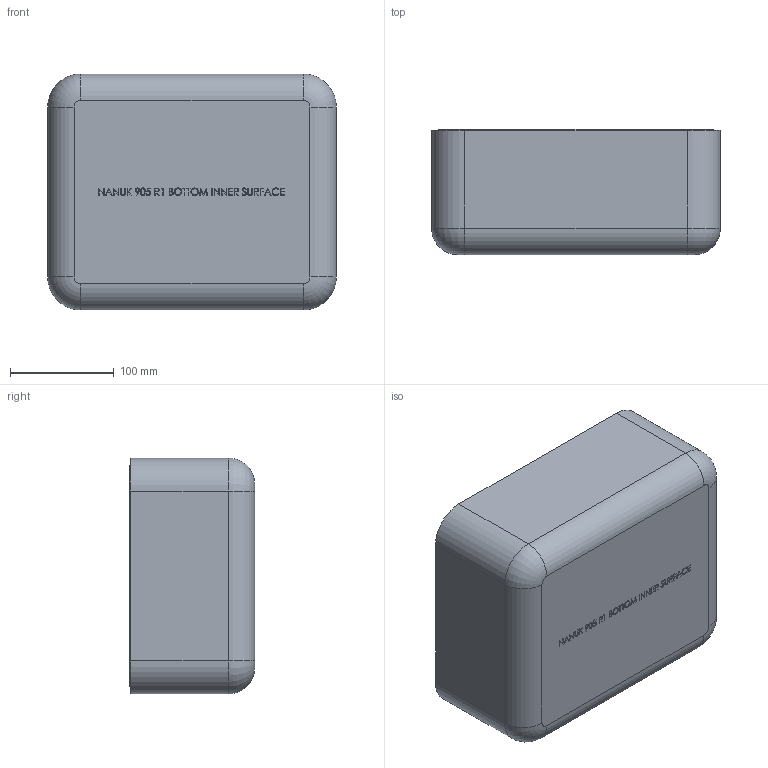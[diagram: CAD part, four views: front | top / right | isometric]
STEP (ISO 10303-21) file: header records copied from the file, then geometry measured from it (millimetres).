
FILE_DESCRIPTION (( 'STEP AP214' ), '1' );
FILE_NAME ('905_R1_Btm_INNER_SURFACE_STEP.STEP', '2020-03-17T19:47:58', ( '' ), ( '' ), 'SwSTEP 2.0', 'SolidWorks 2018', '' );
FILE_SCHEMA (( 'AUTOMOTIVE_DESIGN' ));
Length unit declared in the file: inch
Products named in the file (1): 905_R1_Btm_INNER_SURFACE_STEP
Bounding box: 278.14 x 120.9 x 227.34 mm (x, y, z)
Volume: 2465193.2 mm3; surface area: 314798.9 mm2
Topology: 1 solids, 1 shells, 984 faces, 2418 edges, 1510 vertices
Faces by surface type: bspline 380, plane 366, cylinder 118, torus 72, cone 40, sphere 8
Entity records: 57582 total; most frequent: CARTESIAN_POINT 37072, ORIENTED_EDGE 4820, DIRECTION 3377, EDGE_CURVE 2410, VERTEX_POINT 1510, AXIS2_PLACEMENT_3D 1173, EDGE_LOOP 1066, LINE 1031
